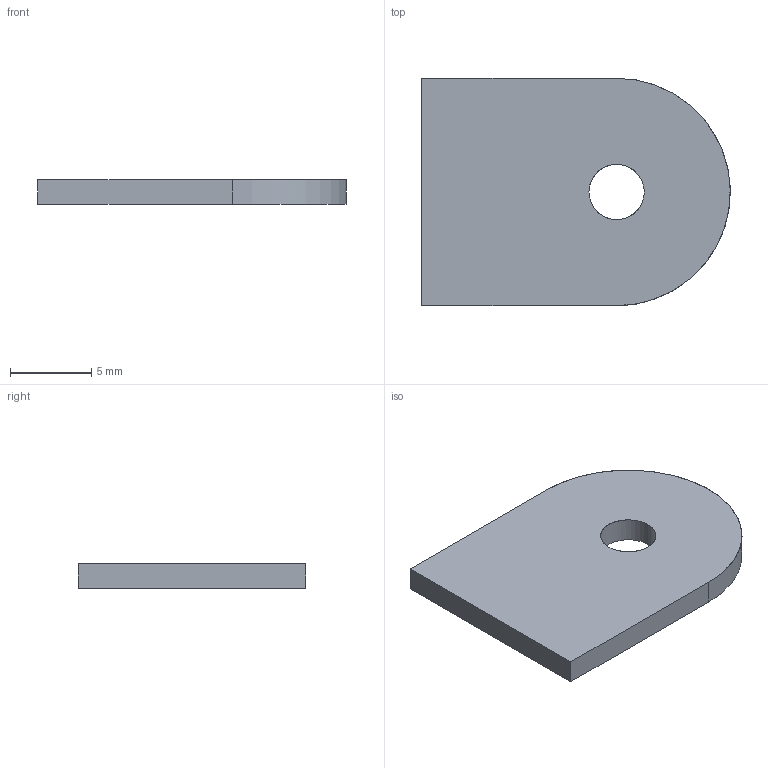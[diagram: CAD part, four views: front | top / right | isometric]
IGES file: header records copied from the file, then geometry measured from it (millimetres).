
Start section: START RECORD GO HERE.
Global section: file name: 20M_FR_04004 (Chape PareFeu).igs; native system: IBM CATIA IGES - CATIA Version 5 Release 19 ; preprocessor: CATIA Version 5 Release 19 ; author: PG; organization: ZENBOOK-DE-PG; date: 20200114.174518; units: millimetre
Bounding box: 19 x 14 x 1.5 mm (x, y, z)
Surface area: 577.8 mm2 (no closed solid volume)
Topology: 0 solids, 0 shells, 8 faces, 42 edges, 42 vertices
Faces by surface type: plane 5, revolution 3
